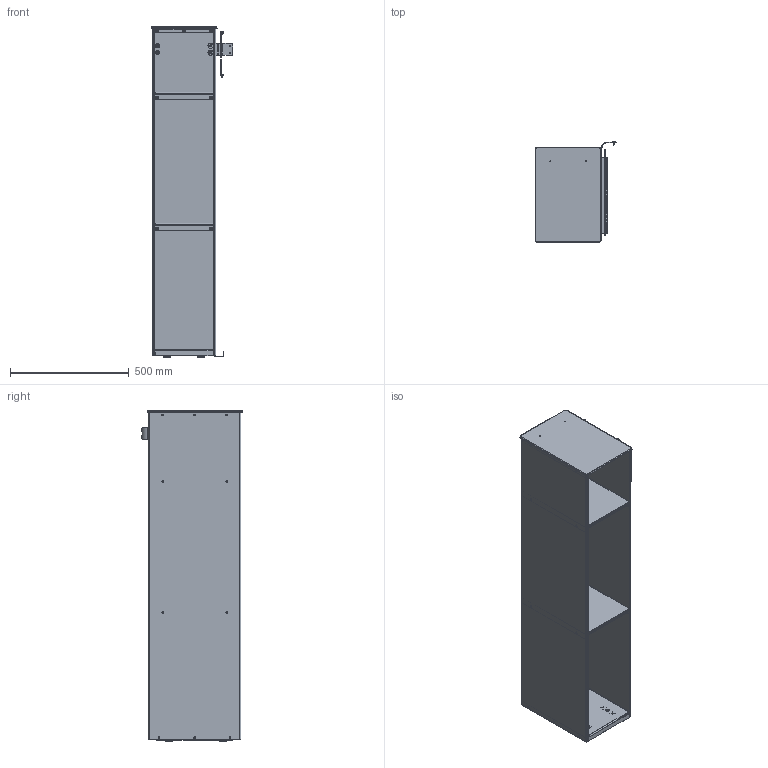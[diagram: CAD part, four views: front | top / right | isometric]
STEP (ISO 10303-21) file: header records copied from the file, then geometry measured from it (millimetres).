
FILE_DESCRIPTION(/* description */ ('Unknown'),/* implementation_level */ '2;1');
FILE_NAME(/* name */ 'Vedfack C410 Med gjutgärnstopp 2026-06-22',/* time_stamp */ '2026-06-22T13:08:38+02:00',/* author */ ('Unknown'),/* organization */ ('Unknown'),/* preprocessor_version */ 'ST-DEVELOPER v20',/* originating_system */ 'Solid Edge',/* authorisation */ 'Unknown');
FILE_SCHEMA (('AUTOMOTIVE_DESIGN {1 0 10303 214 3 1 1}'));
Length unit declared in the file: millimetre
Products named in the file (37): DSN1135244; 803747 Justerbar fot; 803263 Bult; 803748 Pinnskruv; 803264 Plasbricka; 803261 Bricka; 803264 Plasbricka_oa_0; 416182 Kupolmutter M5 Svart; 416149 Svartoxiderad bricka; DSN1135247; 416179 Presskruv M5x10; DSN1131299; DSN1135248; DSN1131301; DSN1143567; DSN1143564; 016521 Mutter M6M M5; DSN1135300; DSN1135301; 416123 Presskruv CH M5x15; DSN1143619; DSN1135249; DSN1131300; DSN1135245; 416062 Blindnitmutter EBPH M8; 798689 Fotplatta; DSN1131297; DSN1135245_2 684_3 072_Fillet 1_oa_1; DSN1146462; DSN1146463; 003613 Täckpropp Svart; S1LARYNjocbu2A_016807 Skruv M5x9FT85T Torx25 FZB; DSN1146483; DSN1146479; DSN1019091; 016002 Nitbricka Ø5xØ22x1; 803343 Plastplugg rund svart
Assembly tree (136 placements, depth 3):
  DSN1135244
    803747 Justerbar fot  x4
      803263 Bult
      803748 Pinnskruv
      803264 Plasbricka
      803261 Bricka
      803264 Plasbricka_oa_0
    416182 Kupolmutter M5 Svart  x23
    416149 Svartoxiderad bricka  x30
    DSN1135247  x2
      416179 Presskruv M5x10
      DSN1131299
    DSN1135248  x2
      DSN1131301
    DSN1143567
      DSN1143564
    016521 Mutter M6M M5  x9
    DSN1135300
      016521 Mutter M6M M5  x2
      DSN1135301
      416123 Presskruv CH M5x15  x2
    DSN1143619
    DSN1135249
      416179 Presskruv M5x10  x10
      DSN1131300
    DSN1135245
      416062 Blindnitmutter EBPH M8  x4
      798689 Fotplatta  x4
      DSN1131297
      DSN1135245_2 684_3 072_Fillet 1_oa_1
    DSN1146462
      DSN1146463
    003613 Täckpropp Svart  x4
    S1LARYNjocbu2A_016807 Skruv M5x9FT85T Torx25 FZB  x3
    DSN1146483
      DSN1146479
    DSN1019091  x2
    016002 Nitbricka Ø5xØ22x1  x2
    803343 Plastplugg rund svart  x2
Bounding box: 344.58 x 423.76 x 1393 mm (x, y, z)
Volume: 4742902.4 mm3; surface area: 4346517.5 mm2
Topology: 156 solids, 156 shells, 4938 faces, 12807 edges, 8305 vertices
Faces by surface type: plane 2621, cylinder 1578, cone 463, torus 164, bspline 86, sphere 26
Full cylindrical faces by diameter (mm): 3.5 x4, 3.6 x4, 3.614 x11, 3.7 x4, 3.8 x4, 4.134 x46, 4.2 x6, 4.6 x2, 5 x71, 5.18 x64, 5.5 x1, 6 x19, 6.5 x49, 6.8 x4, 7.125 x23, 7.2 x7, 8 x8, 8.4 x2, 8.5 x4, 9.5 x4, 10 x3, 10.8 x4, 10.95 x4, 14.5 x4, 16.2 x4, 16.75 x4, 18 x2, 22 x2, 30 x8
Entity records: 45862 total; most frequent: CARTESIAN_POINT 18467, DIRECTION 5504, ORIENTED_EDGE 4994, EDGE_CURVE 2497, AXIS2_PLACEMENT_3D 2078, VERTEX_POINT 1668, FACE_BOUND 1471, EDGE_LOOP 1468
